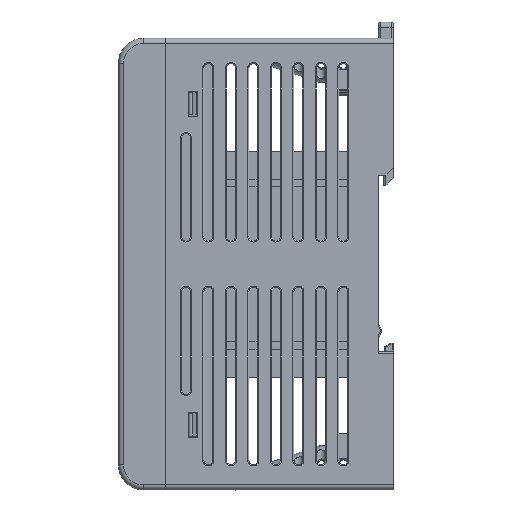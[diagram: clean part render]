
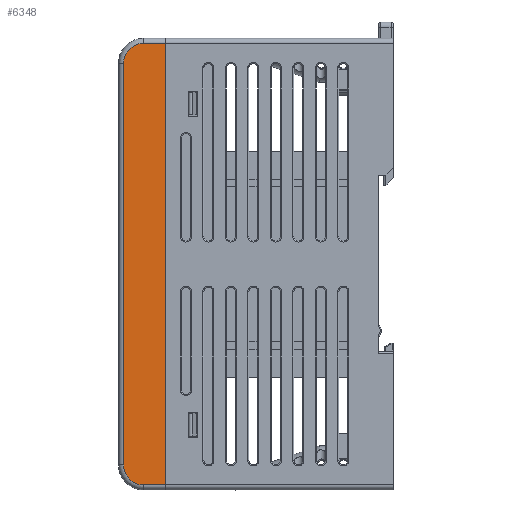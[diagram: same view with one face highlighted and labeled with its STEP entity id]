
A CAD part, left-side view. The second image highlights one B-rep face of the part: STEP entity #6348.
In plain terms, the highlighted planar face has unit normal (-1, 0, 0).
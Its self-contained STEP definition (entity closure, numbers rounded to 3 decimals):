
#1794=DIRECTION('',(0.,0.,1.));
#1795=VECTOR('',#1794,88.);
#1796=CARTESIAN_POINT('',(-12.5,0.,-44.));
#1797=LINE('',#1796,#1795);
#2060=DIRECTION('',(0.,-1.,0.));
#2061=VECTOR('',#2060,4.4);
#2062=CARTESIAN_POINT('',(-12.5,4.4,-44.));
#2063=LINE('',#2062,#2061);
#2067=CARTESIAN_POINT('',(-12.5,4.4,-40.));
#2068=DIRECTION('',(-1.,0.,0.));
#2069=DIRECTION('',(0.,1.,0.));
#2070=AXIS2_PLACEMENT_3D('',#2067,#2068,#2069);
#2075=DIRECTION('',(0.,0.,-1.));
#2076=VECTOR('',#2075,80.);
#2077=CARTESIAN_POINT('',(-12.5,8.4,40.));
#2078=LINE('',#2077,#2076);
#2082=CARTESIAN_POINT('',(-12.5,4.4,40.));
#2083=DIRECTION('',(-1.,0.,0.));
#2084=DIRECTION('',(0.,0.,1.));
#2085=AXIS2_PLACEMENT_3D('',#2082,#2083,#2084);
#2090=DIRECTION('',(0.,1.,0.));
#2091=VECTOR('',#2090,4.4);
#2092=CARTESIAN_POINT('',(-12.5,0.,44.));
#2093=LINE('',#2092,#2091);
#4539=CARTESIAN_POINT('',(-12.5,0.,-44.));
#4541=VERTEX_POINT('',#4539);
#4545=CARTESIAN_POINT('',(-12.5,4.4,-44.));
#4546=VERTEX_POINT('',#4545);
#4547=CARTESIAN_POINT('',(-12.5,8.4,-40.));
#4548=VERTEX_POINT('',#4547);
#4551=CARTESIAN_POINT('',(-12.5,8.4,40.));
#4552=VERTEX_POINT('',#4551);
#4555=CARTESIAN_POINT('',(-12.5,4.4,44.));
#4556=VERTEX_POINT('',#4555);
#4560=CARTESIAN_POINT('',(-12.5,0.,44.));
#4562=VERTEX_POINT('',#4560);
#6332=CARTESIAN_POINT('',(-12.5,0.,-45.));
#6333=DIRECTION('',(-1.,0.,0.));
#6334=DIRECTION('',(0.,0.,1.));
#6335=AXIS2_PLACEMENT_3D('',#6332,#6333,#6334);
#6336=PLANE('',#6335);
#6337=ORIENTED_EDGE('',*,*,#6232,.F.);
#6339=ORIENTED_EDGE('',*,*,#6338,.F.);
#6341=ORIENTED_EDGE('',*,*,#6340,.F.);
#6343=ORIENTED_EDGE('',*,*,#6342,.F.);
#6344=ORIENTED_EDGE('',*,*,#6324,.F.);
#6345=ORIENTED_EDGE('',*,*,#6162,.F.);
#6346=EDGE_LOOP('',(#6337,#6339,#6341,#6343,#6344,#6345));
#6347=FACE_OUTER_BOUND('',#6346,.F.);
#6348=ADVANCED_FACE('',(#6347),#6336,.T.);
#2071=CIRCLE('',#2070,4.);
#2086=CIRCLE('',#2085,4.);
#6162=EDGE_CURVE('',#4541,#4562,#1797,.T.);
#6232=EDGE_CURVE('',#4546,#4541,#2063,.T.);
#6324=EDGE_CURVE('',#4562,#4556,#2093,.T.);
#6338=EDGE_CURVE('',#4548,#4546,#2071,.T.);
#6340=EDGE_CURVE('',#4552,#4548,#2078,.T.);
#6342=EDGE_CURVE('',#4556,#4552,#2086,.T.);
